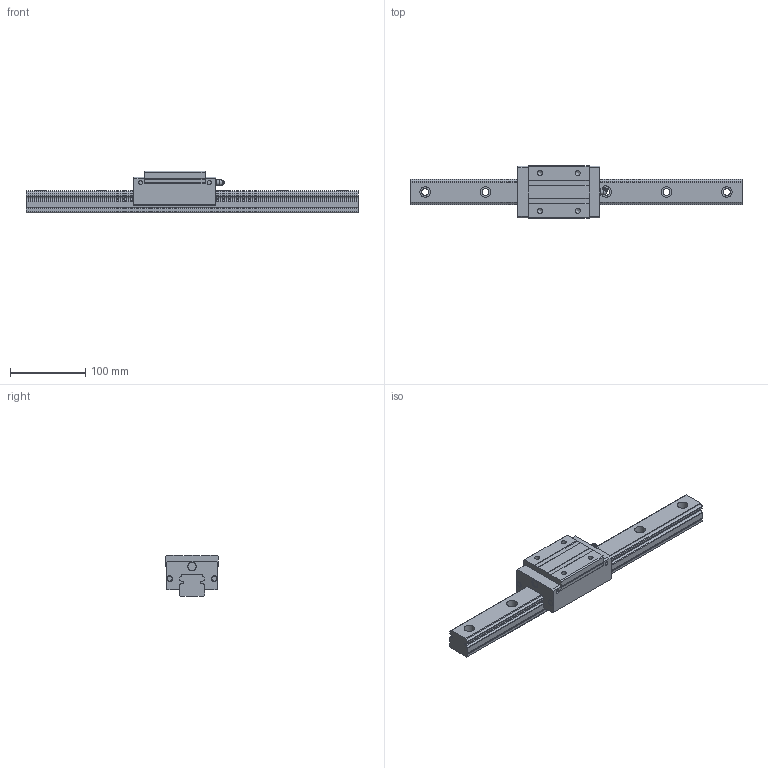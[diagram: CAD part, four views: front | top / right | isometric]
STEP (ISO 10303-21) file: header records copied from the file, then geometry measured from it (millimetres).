
FILE_DESCRIPTION((''),'2;1');
FILE_NAME('D:\製品 (図面)\カタログ用3D\リニアガイド関連\STEP形式\LGHR\LGHR35.stp','2010-06-02T15:52:51',('Tsuchiya'),(''),'Autodesk Inventor 10','Autodesk Inventor 10','');
FILE_SCHEMA(('AUTOMOTIVE_DESIGN { 1 0 10303 214 1 1 1 1 }'));
Length unit declared in the file: millimetre
Products named in the file (3): LGHR35; LGHR351; LGHR352
Assembly tree (2 placements, depth 2):
  LGHR35
    LGHR351
    LGHR352
Bounding box: 440 x 70 x 55 mm (x, y, z)
Volume: 644787.4 mm3; surface area: 103833.4 mm2
Topology: 2 solids, 2 shells, 177 faces, 461 edges, 304 vertices
Faces by surface type: plane 91, cylinder 43, bspline 36, cone 4, sphere 3
Full cylindrical faces by diameter (mm): 6.647 x2, 7 x3, 7.7 x1, 8 x2, 11 x1
Entity records: 5696 total; most frequent: CARTESIAN_POINT 1495, DIRECTION 832, ORIENTED_EDGE 816, EDGE_CURVE 408, VERTEX_POINT 294, AXIS2_PLACEMENT_3D 282, VECTOR 268, LINE 268
